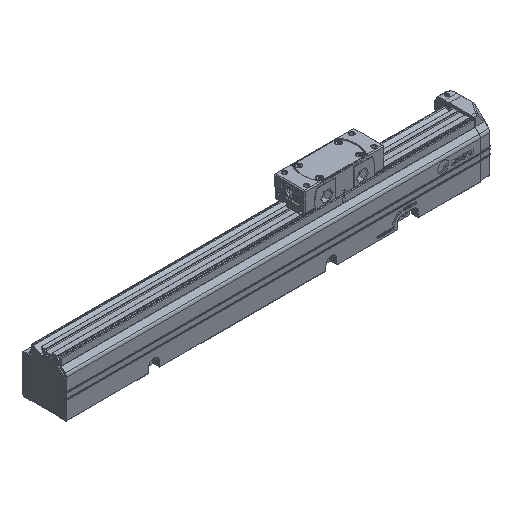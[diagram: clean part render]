
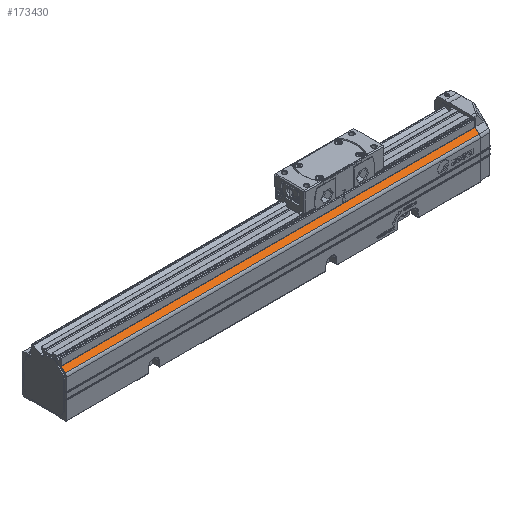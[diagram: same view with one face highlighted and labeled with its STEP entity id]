
A CAD part, isometric view. The second image highlights one B-rep face of the part: STEP entity #173430.
In plain terms, the highlighted planar face has unit normal (0, -0.707, 0.707) as drawn and (0, -0.707, -0.707) by its records, which use the part's own axes.
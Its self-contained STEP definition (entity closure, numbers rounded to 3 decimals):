
#173040=CARTESIAN_POINT('',(-346.073,-29.423,
-33.467));
#173050=DIRECTION('',(0.,-0.707,
-0.707));
#173060=DIRECTION('',(0.,-0.707,
0.707));
#173070=AXIS2_PLACEMENT_3D('',#173040,#173050,#173060);
#173080=PLANE('',#173070);
#173090=CARTESIAN_POINT('',(-212.073,-5.888,
-57.002));
#173100=DIRECTION('',(0.,0.707,
-0.707));
#173110=VECTOR('',#173100,1.);
#173120=LINE('',#173090,#173110);
#173130=CARTESIAN_POINT('',(-212.073,-29.423,
-33.467));
#173140=VERTEX_POINT('',#173130);
#173150=CARTESIAN_POINT('',(-212.073,-25.034,
-37.856));
#173160=VERTEX_POINT('',#173150);
#173170=EDGE_CURVE('',#173140,#173160,#173120,.T.);
#173180=ORIENTED_EDGE('',*,*,#173170,.T.);
#173190=CARTESIAN_POINT('',(-346.073,-29.423,
-33.467));
#173200=DIRECTION('',(-1.,0.,0.));
#173210=VECTOR('',#173200,1.);
#173220=LINE('',#173190,#173210);
#173230=CARTESIAN_POINT('',(254.927,-29.423,
-33.467));
#173240=VERTEX_POINT('',#173230);
#173250=EDGE_CURVE('',#173240,#173140,#173220,.T.);
#173260=ORIENTED_EDGE('',*,*,#173250,.T.);
#173270=CARTESIAN_POINT('',(254.927,-5.888,
-57.002));
#173280=DIRECTION('',(0.,0.707,
-0.707));
#173290=VECTOR('',#173280,1.);
#173300=LINE('',#173270,#173290);
#173310=CARTESIAN_POINT('',(254.927,-25.034,
-37.856));
#173320=VERTEX_POINT('',#173310);
#173330=EDGE_CURVE('',#173240,#173320,#173300,.T.);
#173340=ORIENTED_EDGE('',*,*,#173330,.F.);
#173350=CARTESIAN_POINT('',(-346.073,-25.034,
-37.856));
#173360=DIRECTION('',(-1.,0.,0.));
#173370=VECTOR('',#173360,1.);
#173380=LINE('',#173350,#173370);
#173390=EDGE_CURVE('',#173320,#173160,#173380,.T.);
#173400=ORIENTED_EDGE('',*,*,#173390,.F.);
#173410=EDGE_LOOP('',(#173400,#173340,#173260,#173180));
#173420=FACE_OUTER_BOUND('',#173410,.T.);
#173430=ADVANCED_FACE('',(#173420),#173080,.T.);
